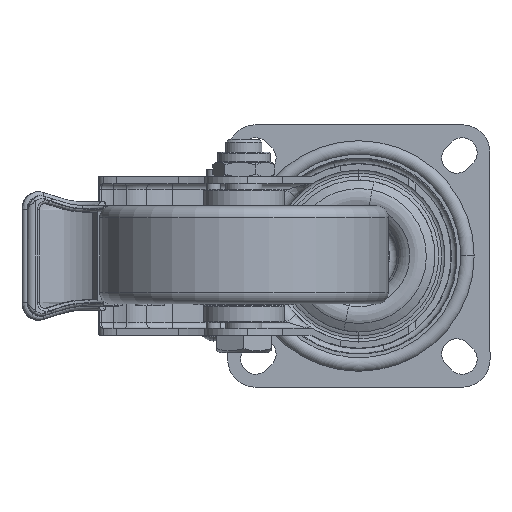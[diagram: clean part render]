
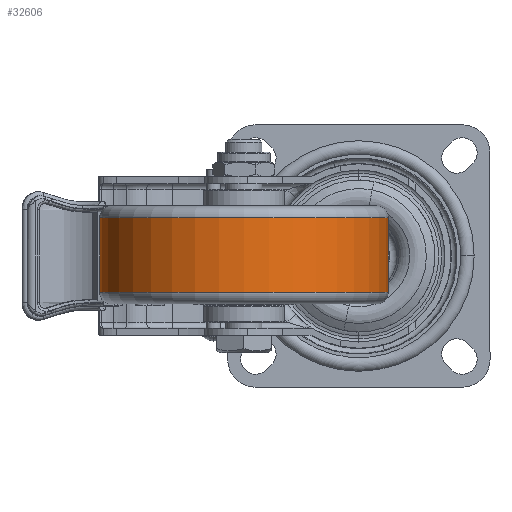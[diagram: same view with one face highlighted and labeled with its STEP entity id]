
A CAD part, front view. The second image highlights one B-rep face of the part: STEP entity #32606.
In plain terms, the highlighted cylindrical face has radius 50.054 mm (diameter 100.109 mm), a partial arc.
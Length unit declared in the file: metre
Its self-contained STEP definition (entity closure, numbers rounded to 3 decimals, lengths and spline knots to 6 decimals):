
#2530 = CYLINDRICAL_SURFACE ( 'NONE', #21550, 0.050054 ) ;
#3779 = CARTESIAN_POINT ( 'NONE',  ( 0.010154, -0.083619, -0.012649 ) ) ;
#4925 = CARTESIAN_POINT ( 'NONE',  ( 0.010154, -0.083619, 0.021845 ) ) ;
#5095 = DIRECTION ( 'NONE',  ( 0., 0., 1. ) ) ;
#5270 = ORIENTED_EDGE ( 'NONE', *, *, #15317, .T. ) ;
#5531 = DIRECTION ( 'NONE',  ( 1., 0., 0. ) ) ;
#6795 = AXIS2_PLACEMENT_3D ( 'NONE', #26198, #19324, #29589 ) ;
#8194 = CIRCLE ( 'NONE', #31259, 0.050054 ) ;
#8643 = EDGE_CURVE ( 'NONE', #25065, #24718, #15379, .T. ) ;
#9220 = VERTEX_POINT ( 'NONE', #10690 ) ;
#9290 = ORIENTED_EDGE ( 'NONE', *, *, #8643, .F. ) ;
#9643 = ORIENTED_EDGE ( 'NONE', *, *, #19573, .T. ) ;
#10228 = CARTESIAN_POINT ( 'NONE',  ( -0.0399, -0.083619, 0.021845 ) ) ;
#10565 = DIRECTION ( 'NONE',  ( 0., 0., 1. ) ) ;
#10623 = LINE ( 'NONE', #4925, #29842 ) ;
#10690 = CARTESIAN_POINT ( 'NONE',  ( -0.089954, -0.083619, -0.012649 ) ) ;
#13408 = CARTESIAN_POINT ( 'NONE',  ( -0.089954, -0.083619, 0.021845 ) ) ;
#13444 = DIRECTION ( 'NONE',  ( 1., 0., 0. ) ) ;
#14907 = CARTESIAN_POINT ( 'NONE',  ( 0.010154, -0.083619, 0.013351 ) ) ;
#15317 = EDGE_CURVE ( 'NONE', #22452, #24718, #10623, .T. ) ;
#15379 = CIRCLE ( 'NONE', #6795, 0.050054 ) ;
#15616 = EDGE_LOOP ( 'NONE', ( #30288, #9643, #5270, #9290 ) ) ;
#16236 = DIRECTION ( 'NONE',  ( 0., 0., 1. ) ) ;
#16871 = CARTESIAN_POINT ( 'NONE',  ( -0.089954, -0.083619, 0.013351 ) ) ;
#17685 = DIRECTION ( 'NONE',  ( 0., 0., 1. ) ) ;
#18106 = FACE_OUTER_BOUND ( 'NONE', #15616, .T. ) ;
#19324 = DIRECTION ( 'NONE',  ( 0., 0., 1. ) ) ;
#19573 = EDGE_CURVE ( 'NONE', #9220, #22452, #8194, .T. ) ;
#21550 = AXIS2_PLACEMENT_3D ( 'NONE', #10228, #10565, #5531 ) ;
#22452 = VERTEX_POINT ( 'NONE', #3779 ) ;
#23086 = EDGE_CURVE ( 'NONE', #9220, #25065, #31054, .T. ) ;
#24718 = VERTEX_POINT ( 'NONE', #14907 ) ;
#25065 = VERTEX_POINT ( 'NONE', #16871 ) ;
#26198 = CARTESIAN_POINT ( 'NONE',  ( -0.0399, -0.083619, 0.013351 ) ) ;
#27531 = VECTOR ( 'NONE', #16236, 1. ) ;
#29589 = DIRECTION ( 'NONE',  ( 1., 0., 0. ) ) ;
#29842 = VECTOR ( 'NONE', #5095, 1. ) ;
#30288 = ORIENTED_EDGE ( 'NONE', *, *, #23086, .F. ) ;
#30306 = CARTESIAN_POINT ( 'NONE',  ( -0.0399, -0.083619, -0.012649 ) ) ;
#31054 = LINE ( 'NONE', #13408, #27531 ) ;
#31259 = AXIS2_PLACEMENT_3D ( 'NONE', #30306, #17685, #13444 ) ;
#32606 = ADVANCED_FACE ( 'NONE', ( #18106 ), #2530, .T. ) ;
